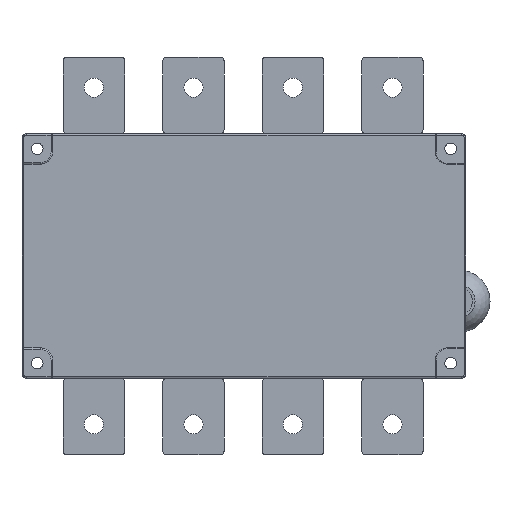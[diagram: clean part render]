
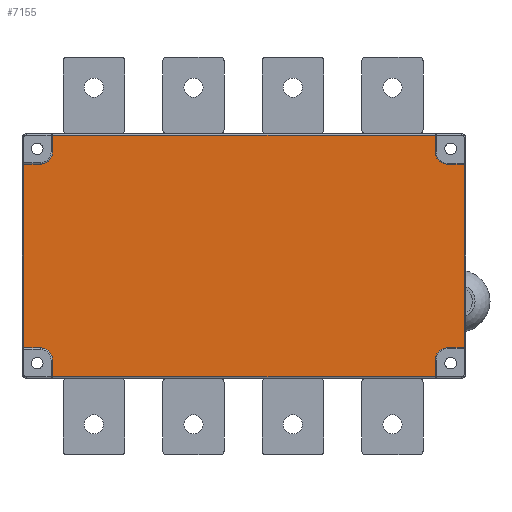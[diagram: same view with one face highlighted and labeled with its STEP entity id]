
A CAD part, front view. The second image highlights one B-rep face of the part: STEP entity #7155.
In plain terms, the highlighted planar face has unit normal (0, -1, 0).
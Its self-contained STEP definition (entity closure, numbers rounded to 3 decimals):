
#3867=DIRECTION('',(0.,0.,-1.));
#3868=VECTOR('',#3867,11.);
#3869=CARTESIAN_POINT('',(-155.,2.,79.));
#3870=LINE('',#3869,#3868);
#3900=DIRECTION('',(0.,0.,-1.));
#3901=VECTOR('',#3900,120.);
#3902=CARTESIAN_POINT('',(-174.,2.,60.));
#3903=LINE('',#3902,#3901);
#3913=DIRECTION('',(1.,0.,0.));
#3914=VECTOR('',#3913,11.);
#3915=CARTESIAN_POINT('',(-174.,2.,60.));
#3916=LINE('',#3915,#3914);
#3917=CARTESIAN_POINT('',(-163.,2.,68.));
#3918=DIRECTION('',(0.,-1.,0.));
#3919=DIRECTION('',(0.,0.,-1.));
#3920=AXIS2_PLACEMENT_3D('',#3917,#3918,#3919);
#3922=CARTESIAN_POINT('',(103.,2.,68.));
#3923=DIRECTION('',(0.,-1.,0.));
#3924=DIRECTION('',(-1.,0.,0.));
#3925=AXIS2_PLACEMENT_3D('',#3922,#3923,#3924);
#3927=CARTESIAN_POINT('',(103.,2.,-68.));
#3928=DIRECTION('',(0.,-1.,0.));
#3929=DIRECTION('',(0.,0.,1.));
#3930=AXIS2_PLACEMENT_3D('',#3927,#3928,#3929);
#3932=DIRECTION('',(0.,0.,1.));
#3933=VECTOR('',#3932,11.);
#3934=CARTESIAN_POINT('',(-155.,2.,-79.));
#3935=LINE('',#3934,#3933);
#3936=CARTESIAN_POINT('',(-163.,2.,-68.));
#3937=DIRECTION('',(0.,-1.,0.));
#3938=DIRECTION('',(1.,0.,0.));
#3939=AXIS2_PLACEMENT_3D('',#3936,#3937,#3938);
#3941=DIRECTION('',(-1.,0.,0.));
#3942=VECTOR('',#3941,250.);
#3943=CARTESIAN_POINT('',(95.,2.,79.));
#3944=LINE('',#3943,#3942);
#3990=DIRECTION('',(0.,0.,1.));
#3991=VECTOR('',#3990,11.);
#3992=CARTESIAN_POINT('',(95.,2.,68.));
#3993=LINE('',#3992,#3991);
#4373=DIRECTION('',(1.,0.,0.));
#4374=VECTOR('',#4373,250.);
#4375=CARTESIAN_POINT('',(-155.,2.,-79.));
#4376=LINE('',#4375,#4374);
#4492=DIRECTION('',(1.,0.,0.));
#4493=VECTOR('',#4492,11.);
#4494=CARTESIAN_POINT('',(-174.,2.,-60.));
#4495=LINE('',#4494,#4493);
#4551=DIRECTION('',(0.,0.,1.));
#4552=VECTOR('',#4551,11.);
#4553=CARTESIAN_POINT('',(95.,2.,-79.));
#4554=LINE('',#4553,#4552);
#4563=DIRECTION('',(1.,0.,0.));
#4564=VECTOR('',#4563,11.);
#4565=CARTESIAN_POINT('',(103.,2.,-60.));
#4566=LINE('',#4565,#4564);
#4599=DIRECTION('',(0.,0.,1.));
#4600=VECTOR('',#4599,120.);
#4601=CARTESIAN_POINT('',(114.,2.,-60.));
#4602=LINE('',#4601,#4600);
#4639=DIRECTION('',(-1.,0.,0.));
#4640=VECTOR('',#4639,11.);
#4641=CARTESIAN_POINT('',(114.,2.,60.));
#4642=LINE('',#4641,#4640);
#5519=CARTESIAN_POINT('',(-155.,2.,79.));
#5520=VERTEX_POINT('',#5519);
#5522=CARTESIAN_POINT('',(-155.,2.,68.));
#5524=VERTEX_POINT('',#5522);
#5525=CARTESIAN_POINT('',(-163.,2.,60.));
#5527=VERTEX_POINT('',#5525);
#5530=CARTESIAN_POINT('',(-174.,2.,60.));
#5532=VERTEX_POINT('',#5530);
#5533=CARTESIAN_POINT('',(-174.,2.,-60.));
#5534=VERTEX_POINT('',#5533);
#5535=CARTESIAN_POINT('',(95.,2.,79.));
#5536=VERTEX_POINT('',#5535);
#5537=CARTESIAN_POINT('',(95.,2.,68.));
#5538=VERTEX_POINT('',#5537);
#5539=CARTESIAN_POINT('',(103.,2.,60.));
#5540=VERTEX_POINT('',#5539);
#5541=CARTESIAN_POINT('',(114.,2.,60.));
#5542=VERTEX_POINT('',#5541);
#5543=CARTESIAN_POINT('',(114.,2.,-60.));
#5544=VERTEX_POINT('',#5543);
#5545=CARTESIAN_POINT('',(103.,2.,-60.));
#5546=VERTEX_POINT('',#5545);
#5547=CARTESIAN_POINT('',(95.,2.,-68.));
#5548=VERTEX_POINT('',#5547);
#5549=CARTESIAN_POINT('',(95.,2.,-79.));
#5550=VERTEX_POINT('',#5549);
#5551=CARTESIAN_POINT('',(-155.,2.,-79.));
#5552=VERTEX_POINT('',#5551);
#5553=CARTESIAN_POINT('',(-155.,2.,-68.));
#5554=VERTEX_POINT('',#5553);
#5555=CARTESIAN_POINT('',(-163.,2.,-60.));
#5556=VERTEX_POINT('',#5555);
#7120=CARTESIAN_POINT('',(0.,2.,0.));
#7121=DIRECTION('',(0.,-1.,0.));
#7122=DIRECTION('',(-1.,0.,0.));
#7123=AXIS2_PLACEMENT_3D('',#7120,#7121,#7122);
#7124=PLANE('',#7123);
#7125=ORIENTED_EDGE('',*,*,#7087,.T.);
#7126=ORIENTED_EDGE('',*,*,#7072,.T.);
#7127=ORIENTED_EDGE('',*,*,#7057,.F.);
#7129=ORIENTED_EDGE('',*,*,#7128,.F.);
#7131=ORIENTED_EDGE('',*,*,#7130,.F.);
#7133=ORIENTED_EDGE('',*,*,#7132,.T.);
#7135=ORIENTED_EDGE('',*,*,#7134,.F.);
#7137=ORIENTED_EDGE('',*,*,#7136,.F.);
#7139=ORIENTED_EDGE('',*,*,#7138,.F.);
#7141=ORIENTED_EDGE('',*,*,#7140,.T.);
#7143=ORIENTED_EDGE('',*,*,#7142,.F.);
#7145=ORIENTED_EDGE('',*,*,#7144,.F.);
#7147=ORIENTED_EDGE('',*,*,#7146,.T.);
#7149=ORIENTED_EDGE('',*,*,#7148,.T.);
#7151=ORIENTED_EDGE('',*,*,#7150,.F.);
#7152=ORIENTED_EDGE('',*,*,#7113,.F.);
#7153=EDGE_LOOP('',(#7125,#7126,#7127,#7129,#7131,#7133,#7135,#7137,#7139,#7141,
#7143,#7145,#7147,#7149,#7151,#7152));
#7154=FACE_OUTER_BOUND('',#7153,.F.);
#3921=CIRCLE('',#3920,8.);
#3926=CIRCLE('',#3925,8.);
#3931=CIRCLE('',#3930,8.);
#3940=CIRCLE('',#3939,8.);
#7057=EDGE_CURVE('',#5520,#5524,#3870,.T.);
#7072=EDGE_CURVE('',#5527,#5524,#3921,.T.);
#7087=EDGE_CURVE('',#5532,#5527,#3916,.T.);
#7113=EDGE_CURVE('',#5532,#5534,#3903,.T.);
#7128=EDGE_CURVE('',#5536,#5520,#3944,.T.);
#7130=EDGE_CURVE('',#5538,#5536,#3993,.T.);
#7132=EDGE_CURVE('',#5538,#5540,#3926,.T.);
#7134=EDGE_CURVE('',#5542,#5540,#4642,.T.);
#7136=EDGE_CURVE('',#5544,#5542,#4602,.T.);
#7138=EDGE_CURVE('',#5546,#5544,#4566,.T.);
#7140=EDGE_CURVE('',#5546,#5548,#3931,.T.);
#7142=EDGE_CURVE('',#5550,#5548,#4554,.T.);
#7144=EDGE_CURVE('',#5552,#5550,#4376,.T.);
#7146=EDGE_CURVE('',#5552,#5554,#3935,.T.);
#7148=EDGE_CURVE('',#5554,#5556,#3940,.T.);
#7150=EDGE_CURVE('',#5534,#5556,#4495,.T.);
#7155=ADVANCED_FACE('',(#7154),#7124,.T.);
